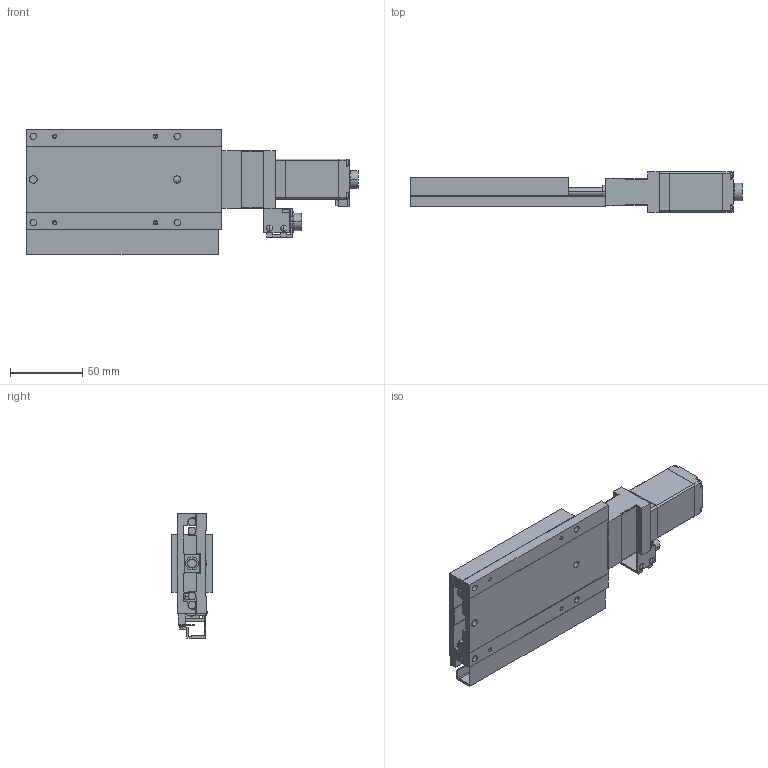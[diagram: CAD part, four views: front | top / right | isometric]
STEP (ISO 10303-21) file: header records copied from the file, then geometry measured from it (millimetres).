
FILE_DESCRIPTION(('STEP AP203'),'1');
FILE_NAME('C:/3D-Trans/3D_PG750M-R□-D+240116.step','2024-02-26T07:24:57',(' '),(' '),'Spatial InterOp 3D',' ',' ');
FILE_SCHEMA(('CONFIG_CONTROL_DESIGN'));
Length unit declared in the file: millimetre
Products named in the file (6): 1; 2; 3; 4; 5; 6
Bounding box: 230.5 x 28 x 87.4 mm (x, y, z)
Volume: 195318 mm3; surface area: 86326.8 mm2
Topology: 6 solids, 6 shells, 656 faces, 1677 edges, 1058 vertices
Faces by surface type: plane 381, cylinder 195, cone 76, sphere 4
Entity records: 19939 total; most frequent: DIRECTION 3495, CARTESIAN_POINT 3373, ORIENTED_EDGE 3306, EDGE_CURVE 1653, AXIS2_PLACEMENT_3D 1180, LINE 1135, VECTOR 1135, VERTEX_POINT 1058
